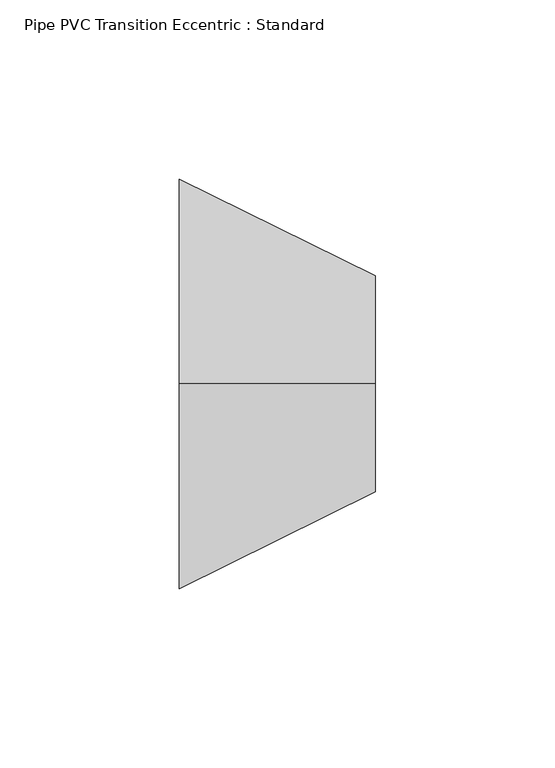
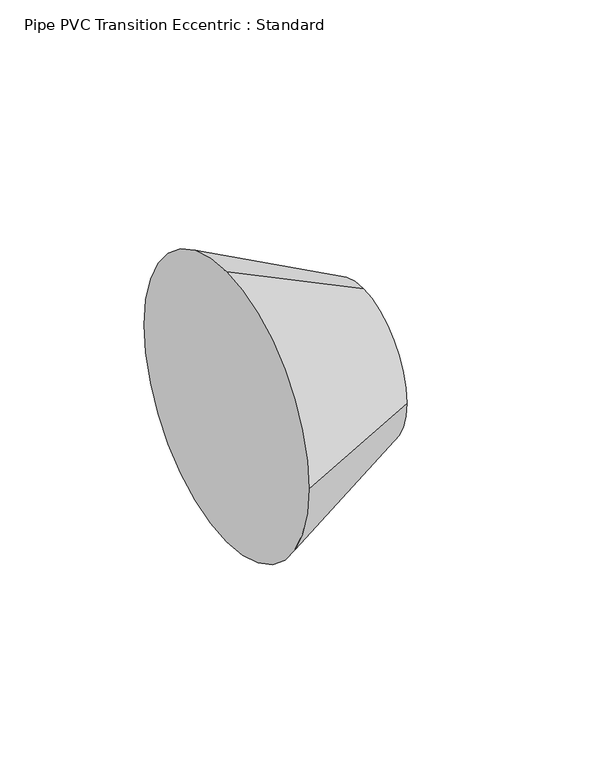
"""IFC4 building model written with IfcOpenShell, lengths in millimetres: pipe fitting geometry, Pipe PVC Transition Eccentric : Standard."""

from ifc_helpers import new_model, si_unit, frame, origin, place, context, project, spatial, circle_curve, source, transform, mapped, element, save
from ifc_brep_helpers import plane_surface, spline_surface, advanced_brep


def pipe_pvc_transition_eccentric_standard_f30648cf(model_context):
    return source(origin(), model_context, "Body", "AdvancedBrep", [
        advanced_brep(
        [(54.76875, 0.0469136, 30.7577479), (54.76875, -30.1155864, 0.5952479), (54.76875, 0.0469136, -29.5672521), (54.76875, 30.2094136, 0.5952479), (0.0, 0.0, 57.15), (0.0, 57.15, 0.0), (0.0, 0.0, -57.15), (0.0, -57.15, 0.0)],
        [
            (0, 1, circle_curve(frame((54.76875, 0.0469136, 0.5952479), z_axis=(1.0, 0.0, 0.0), x_axis=(0.0, 1.0, 0.0)), 30.1625)),
            (1, 2, circle_curve(frame((54.76875, 0.0469136, 0.5952479), z_axis=(1.0, 0.0, 0.0), x_axis=(0.0, 1.0, 0.0)), 30.1625)),
            (2, 3, circle_curve(frame((54.76875, 0.0469136, 0.5952479), z_axis=(1.0, 0.0, 0.0), x_axis=(0.0, 1.0, 0.0)), 30.1625)),
            (3, 0, circle_curve(frame((54.76875, 0.0469136, 0.5952479), z_axis=(1.0, 0.0, 0.0), x_axis=(0.0, 1.0, 0.0)), 30.1625)),
            (4, 5, circle_curve(frame((0.0, 0.0, 0.0), z_axis=(-1.0, 0.0, 0.0), x_axis=(0.0, 1.0, 0.0)), 57.15)),
            (5, 6, circle_curve(frame((0.0, 0.0, 0.0), z_axis=(-1.0, 0.0, 0.0), x_axis=(0.0, 1.0, 0.0)), 57.15)),
            (6, 7, circle_curve(frame((0.0, 0.0, 0.0), z_axis=(-1.0, 0.0, 0.0), x_axis=(0.0, 1.0, 0.0)), 57.15)),
            (7, 4, circle_curve(frame((0.0, 0.0, 0.0), z_axis=(-1.0, 0.0, 0.0), x_axis=(0.0, 1.0, 0.0)), 57.15)),
            (7, 1),
            (0, 4),
            (6, 2),
            (5, 3),
        ],
        [
            plane_surface(frame((54.76875, 0.0469136, 0.5952479), z_axis=(1.0, 0.0, 0.0), x_axis=(0.0, -1.0, 0.0))),
            plane_surface(frame((0.0, 0.0, 0.0), z_axis=(-1.0, 0.0, 0.0), x_axis=(0.0, -1.0, 0.0))),
            spline_surface(2, 1, [[(0.0, 0.0, 57.15), (54.76875, 0.0469136, 30.7577479)], [(0.0, -57.15, 57.15), (54.76875, -30.115586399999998, 30.7577479)], [(0.0, -57.15, 0.0), (54.76875, -30.1155864, 0.5952479)]], [3, 3], [2, 2], [0.0, 1.0], [0.0, 1.0], weights=[[1.0, 1.0], [0.7071067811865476, 0.7071067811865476], [1.0, 1.0]]),
            spline_surface(2, 1, [[(0.0, -57.15, 0.0), (54.76875, -30.1155864, 0.5952479)], [(0.0, -57.15, -57.15), (54.76875, -30.1155864, -29.5672521)], [(0.0, 0.0, -57.15), (54.76875, 0.0469136, -29.5672521)]], [3, 3], [2, 2], [0.0, 1.0], [0.0, 1.0], weights=[[1.0, 1.0], [0.7071067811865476, 0.7071067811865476], [1.0, 1.0]]),
            spline_surface(2, 1, [[(0.0, 0.0, -57.15), (54.76875, 0.0469136, -29.5672521)], [(0.0, 57.15, -57.15), (54.76875, 30.2094136, -29.5672521)], [(0.0, 57.15, 0.0), (54.76875, 30.2094136, 0.5952479)]], [3, 3], [2, 2], [0.0, 1.0], [0.0, 1.0], weights=[[1.0, 1.0], [0.7071067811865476, 0.7071067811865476], [1.0, 1.0]]),
            spline_surface(2, 1, [[(0.0, 57.15, 0.0), (54.76875, 30.2094136, 0.5952479)], [(0.0, 57.15, 57.15), (54.76875, 30.2094136, 30.757747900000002)], [(0.0, 0.0, 57.15), (54.76875, 0.0469136, 30.7577479)]], [3, 3], [2, 2], [0.0, 1.0], [0.0, 1.0], weights=[[1.0, 1.0], [0.7071067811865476, 0.7071067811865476], [1.0, 1.0]]),
        ],
        [
            (0, [[1, 2, 3, 4]]),
            (1, [[5, 6, 7, 8]]),
            (2, [[-8, 9, -1, 10]]),
            (3, [[-7, 11, -2, -9]]),
            (4, [[-6, 12, -3, -11]]),
            (5, [[-5, -10, -4, -12]]),
        ],
    ),
        advanced_brep(
        [(54.76875, 0.0469136, 30.7577479), (54.76875, -30.1155864, 0.5952479), (54.76875, 0.0469136, -29.5672521), (54.76875, 30.2094136, 0.5952479), (0.0, 0.0, 57.15), (0.0, 57.15, 0.0), (0.0, 0.0, -57.15), (0.0, -57.15, 0.0)],
        [
            (0, 1, circle_curve(frame((54.76875, 0.0469136, 0.5952479), z_axis=(1.0, 0.0, 0.0), x_axis=(0.0, 1.0, 0.0)), 30.1625)),
            (1, 2, circle_curve(frame((54.76875, 0.0469136, 0.5952479), z_axis=(1.0, 0.0, 0.0), x_axis=(0.0, 1.0, 0.0)), 30.1625)),
            (2, 3, circle_curve(frame((54.76875, 0.0469136, 0.5952479), z_axis=(1.0, 0.0, 0.0), x_axis=(0.0, 1.0, 0.0)), 30.1625)),
            (3, 0, circle_curve(frame((54.76875, 0.0469136, 0.5952479), z_axis=(1.0, 0.0, 0.0), x_axis=(0.0, 1.0, 0.0)), 30.1625)),
            (4, 5, circle_curve(frame((0.0, 0.0, 0.0), z_axis=(-1.0, 0.0, 0.0), x_axis=(0.0, 1.0, 0.0)), 57.15)),
            (5, 6, circle_curve(frame((0.0, 0.0, 0.0), z_axis=(-1.0, 0.0, 0.0), x_axis=(0.0, 1.0, 0.0)), 57.15)),
            (6, 7, circle_curve(frame((0.0, 0.0, 0.0), z_axis=(-1.0, 0.0, 0.0), x_axis=(0.0, 1.0, 0.0)), 57.15)),
            (7, 4, circle_curve(frame((0.0, 0.0, 0.0), z_axis=(-1.0, 0.0, 0.0), x_axis=(0.0, 1.0, 0.0)), 57.15)),
            (7, 1),
            (0, 4),
            (6, 2),
            (5, 3),
        ],
        [
            plane_surface(frame((54.76875, 0.0469136, 0.5952479), z_axis=(1.0, 0.0, 0.0), x_axis=(0.0, -1.0, 0.0))),
            plane_surface(frame((0.0, 0.0, 0.0), z_axis=(-1.0, 0.0, 0.0), x_axis=(0.0, -1.0, 0.0))),
            spline_surface(2, 1, [[(0.0, 0.0, 57.15), (54.76875, 0.0469136, 30.7577479)], [(0.0, -57.15, 57.15), (54.76875, -30.115586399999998, 30.7577479)], [(0.0, -57.15, 0.0), (54.76875, -30.1155864, 0.5952479)]], [3, 3], [2, 2], [0.0, 1.0], [0.0, 1.0], weights=[[1.0, 1.0], [0.7071067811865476, 0.7071067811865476], [1.0, 1.0]]),
            spline_surface(2, 1, [[(0.0, -57.15, 0.0), (54.76875, -30.1155864, 0.5952479)], [(0.0, -57.15, -57.15), (54.76875, -30.1155864, -29.5672521)], [(0.0, 0.0, -57.15), (54.76875, 0.0469136, -29.5672521)]], [3, 3], [2, 2], [0.0, 1.0], [0.0, 1.0], weights=[[1.0, 1.0], [0.7071067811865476, 0.7071067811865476], [1.0, 1.0]]),
            spline_surface(2, 1, [[(0.0, 0.0, -57.15), (54.76875, 0.0469136, -29.5672521)], [(0.0, 57.15, -57.15), (54.76875, 30.2094136, -29.5672521)], [(0.0, 57.15, 0.0), (54.76875, 30.2094136, 0.5952479)]], [3, 3], [2, 2], [0.0, 1.0], [0.0, 1.0], weights=[[1.0, 1.0], [0.7071067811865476, 0.7071067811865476], [1.0, 1.0]]),
            spline_surface(2, 1, [[(0.0, 57.15, 0.0), (54.76875, 30.2094136, 0.5952479)], [(0.0, 57.15, 57.15), (54.76875, 30.2094136, 30.757747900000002)], [(0.0, 0.0, 57.15), (54.76875, 0.0469136, 30.7577479)]], [3, 3], [2, 2], [0.0, 1.0], [0.0, 1.0], weights=[[1.0, 1.0], [0.7071067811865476, 0.7071067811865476], [1.0, 1.0]]),
        ],
        [
            (0, [[1, 2, 3, 4]]),
            (1, [[5, 6, 7, 8]]),
            (2, [[-8, 9, -1, 10]]),
            (3, [[-7, 11, -2, -9]]),
            (4, [[-6, 12, -3, -11]]),
            (5, [[-5, -10, -4, -12]]),
        ],
    ),
    ])


if __name__ == "__main__":
    model = new_model("IFC4")
    model_context = context("Model", 3, world=origin())
    ifc_project = project(units=[si_unit("LENGTHUNIT", "METRE", prefix="MILLI")], contexts=[model_context])
    site = spatial("IfcSite", under=ifc_project)
    building = spatial("IfcBuilding", under=site)
    placement = place(None, origin())
    pipe_pvc_transition_eccentric_standard_shape = pipe_pvc_transition_eccentric_standard_f30648cf(model_context)
    element("IfcPipeFitting", 1, ObjectType="Pipe PVC Transition Eccentric : Standard", at=placement, inside=building, context=model_context, shape_type="MappedRepresentation", body=[
        mapped(pipe_pvc_transition_eccentric_standard_shape, transform((0.0, 0.0, 0.0), x_axis=(1.0, 0.0, 0.0), y_axis=(0.0, 1.0, 0.0), z_axis=(0.0, 0.0, 1.0))),
    ])
    save(model, "model.ifc")
